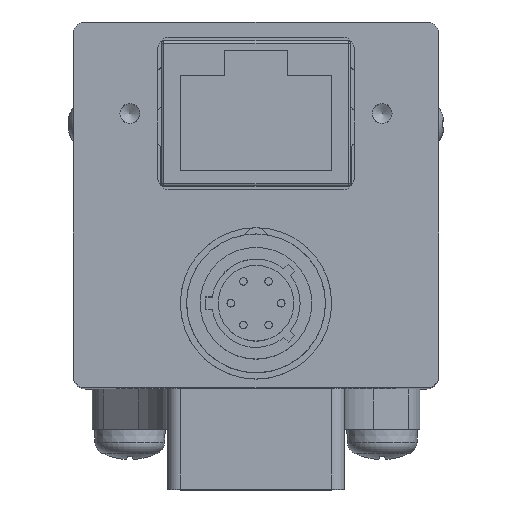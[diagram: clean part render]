
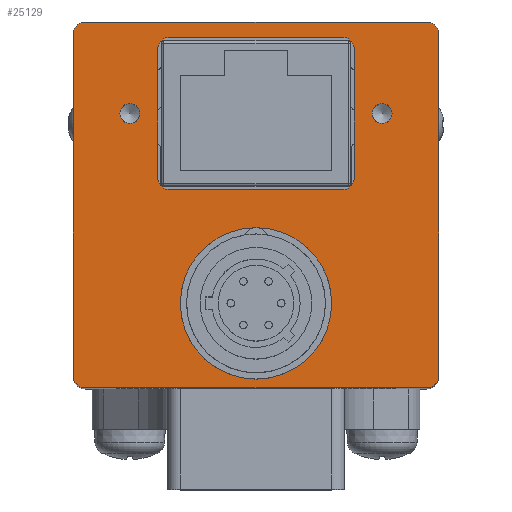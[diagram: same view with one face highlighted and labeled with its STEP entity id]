
A CAD part, top view. The second image highlights one B-rep face of the part: STEP entity #25129.
In plain terms, the highlighted planar face has unit normal (0, 0, 1).
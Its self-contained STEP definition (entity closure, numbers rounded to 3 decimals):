
#271=LINE('',#37539,#1731);
#310=LINE('',#37749,#1770);
#317=LINE('',#37763,#1777);
#320=LINE('',#37771,#1780);
#322=LINE('',#37777,#1782);
#346=LINE('',#37831,#1806);
#347=LINE('',#37834,#1807);
#348=LINE('',#37835,#1808);
#1731=VECTOR('',#30088,27.);
#1770=VECTOR('',#30225,13.6);
#1777=VECTOR('',#30238,10.1);
#1780=VECTOR('',#30247,13.6);
#1782=VECTOR('',#30255,10.1);
#1806=VECTOR('',#30317,27.);
#1807=VECTOR('',#30320,27.);
#1808=VECTOR('',#30321,27.);
#4081=PLANE('',#26917);
#5151=FACE_BOUND('',#7263,.T.);
#5152=FACE_BOUND('',#7264,.T.);
#5153=FACE_BOUND('',#7265,.T.);
#5154=FACE_BOUND('',#7266,.T.);
#5638=FACE_OUTER_BOUND('',#7262,.T.);
#7262=EDGE_LOOP('',(#16883,#16884,#16885,#16886,#16887,#16888,#16889,#16890));
#7263=EDGE_LOOP('',(#16891));
#7264=EDGE_LOOP('',(#16892));
#7265=EDGE_LOOP('',(#16893));
#7266=EDGE_LOOP('',(#16894,#16895,#16896,#16897,#16898,#16899,#16900,#16901));
#9194=CIRCLE('',#26840,1.);
#9195=CIRCLE('',#26843,1.);
#9200=CIRCLE('',#26854,0.784);
#9202=CIRCLE('',#26858,0.784);
#9210=CIRCLE('',#26884,6.);
#9213=CIRCLE('',#26889,1.);
#9214=CIRCLE('',#26892,1.);
#9215=CIRCLE('',#26895,1.);
#9216=CIRCLE('',#26898,1.);
#9219=CIRCLE('',#26918,1.);
#9220=CIRCLE('',#26919,1.);
#10528=VERTEX_POINT('',#37531);
#10529=VERTEX_POINT('',#37533);
#10530=VERTEX_POINT('',#37537);
#10531=VERTEX_POINT('',#37541);
#10542=VERTEX_POINT('',#37654);
#10544=VERTEX_POINT('',#37660);
#10562=VERTEX_POINT('',#37729);
#10566=VERTEX_POINT('',#37742);
#10567=VERTEX_POINT('',#37744);
#10568=VERTEX_POINT('',#37748);
#10571=VERTEX_POINT('',#37757);
#10572=VERTEX_POINT('',#37758);
#10573=VERTEX_POINT('',#37765);
#10574=VERTEX_POINT('',#37766);
#10575=VERTEX_POINT('',#37773);
#10584=VERTEX_POINT('',#37827);
#10585=VERTEX_POINT('',#37828);
#10586=VERTEX_POINT('',#37830);
#10587=VERTEX_POINT('',#37832);
#12866=EDGE_CURVE('',#10528,#10529,#9194,.T.);
#12869=EDGE_CURVE('',#10528,#10530,#271,.T.);
#12871=EDGE_CURVE('',#10531,#10530,#9195,.T.);
#12884=EDGE_CURVE('',#10542,#10542,#9200,.T.);
#12886=EDGE_CURVE('',#10544,#10544,#9202,.T.);
#12921=EDGE_CURVE('',#10562,#10562,#9210,.T.);
#12929=EDGE_CURVE('',#10566,#10567,#9213,.T.);
#12931=EDGE_CURVE('',#10568,#10567,#310,.T.);
#12936=EDGE_CURVE('',#10571,#10572,#9214,.T.);
#12939=EDGE_CURVE('',#10566,#10572,#317,.T.);
#12940=EDGE_CURVE('',#10573,#10574,#9215,.T.);
#12943=EDGE_CURVE('',#10571,#10574,#320,.T.);
#12944=EDGE_CURVE('',#10568,#10575,#9216,.T.);
#12946=EDGE_CURVE('',#10573,#10575,#322,.T.);
#12972=EDGE_CURVE('',#10584,#10585,#9219,.T.);
#12973=EDGE_CURVE('',#10584,#10586,#346,.T.);
#12974=EDGE_CURVE('',#10587,#10586,#9220,.T.);
#12975=EDGE_CURVE('',#10587,#10529,#347,.T.);
#12976=EDGE_CURVE('',#10531,#10585,#348,.T.);
#16883=ORIENTED_EDGE('',*,*,#12972,.F.);
#16884=ORIENTED_EDGE('',*,*,#12973,.T.);
#16885=ORIENTED_EDGE('',*,*,#12974,.F.);
#16886=ORIENTED_EDGE('',*,*,#12975,.T.);
#16887=ORIENTED_EDGE('',*,*,#12866,.F.);
#16888=ORIENTED_EDGE('',*,*,#12869,.T.);
#16889=ORIENTED_EDGE('',*,*,#12871,.F.);
#16890=ORIENTED_EDGE('',*,*,#12976,.T.);
#16891=ORIENTED_EDGE('',*,*,#12884,.T.);
#16892=ORIENTED_EDGE('',*,*,#12886,.T.);
#16893=ORIENTED_EDGE('',*,*,#12921,.T.);
#16894=ORIENTED_EDGE('',*,*,#12946,.T.);
#16895=ORIENTED_EDGE('',*,*,#12944,.F.);
#16896=ORIENTED_EDGE('',*,*,#12931,.T.);
#16897=ORIENTED_EDGE('',*,*,#12929,.F.);
#16898=ORIENTED_EDGE('',*,*,#12939,.T.);
#16899=ORIENTED_EDGE('',*,*,#12936,.F.);
#16900=ORIENTED_EDGE('',*,*,#12943,.T.);
#16901=ORIENTED_EDGE('',*,*,#12940,.F.);
#25129=ADVANCED_FACE('',(#5638,#5151,#5152,#5153,#5154),#4081,.F.);
#26840=AXIS2_PLACEMENT_3D('',#37534,#30082,#30083);
#26843=AXIS2_PLACEMENT_3D('',#37543,#30092,#30093);
#26854=AXIS2_PLACEMENT_3D('',#37655,#30120,#30121);
#26858=AXIS2_PLACEMENT_3D('',#37661,#30128,#30129);
#26884=AXIS2_PLACEMENT_3D('',#37730,#30205,#30206);
#26889=AXIS2_PLACEMENT_3D('',#37745,#30220,#30221);
#26892=AXIS2_PLACEMENT_3D('',#37759,#30232,#30233);
#26895=AXIS2_PLACEMENT_3D('',#37767,#30241,#30242);
#26898=AXIS2_PLACEMENT_3D('',#37774,#30250,#30251);
#26917=AXIS2_PLACEMENT_3D('',#37826,#30313,#30314);
#26918=AXIS2_PLACEMENT_3D('',#37829,#30315,#30316);
#26919=AXIS2_PLACEMENT_3D('',#37833,#30318,#30319);
#30082=DIRECTION('center_axis',(0.,0.,-1.));
#30083=DIRECTION('ref_axis',(0.707,0.707,0.));
#30088=DIRECTION('',(-1.,0.,0.));
#30092=DIRECTION('center_axis',(0.,0.,-1.));
#30093=DIRECTION('ref_axis',(-0.707,0.707,0.));
#30120=DIRECTION('center_axis',(0.,0.,-1.));
#30121=DIRECTION('ref_axis',(1.,0.,0.));
#30128=DIRECTION('center_axis',(0.,0.,-1.));
#30129=DIRECTION('ref_axis',(1.,0.,0.));
#30205=DIRECTION('center_axis',(0.,0.,-1.));
#30206=DIRECTION('ref_axis',(1.,0.,0.));
#30220=DIRECTION('center_axis',(0.,0.,1.));
#30221=DIRECTION('ref_axis',(0.707,0.707,0.));
#30225=DIRECTION('',(1.,0.,0.));
#30232=DIRECTION('center_axis',(0.,0.,1.));
#30233=DIRECTION('ref_axis',(0.707,-0.707,0.));
#30238=DIRECTION('',(0.,-1.,0.));
#30241=DIRECTION('center_axis',(0.,0.,1.));
#30242=DIRECTION('ref_axis',(-0.707,-0.707,0.));
#30247=DIRECTION('',(-1.,0.,0.));
#30250=DIRECTION('center_axis',(0.,0.,1.));
#30251=DIRECTION('ref_axis',(-0.707,0.707,0.));
#30255=DIRECTION('',(0.,1.,0.));
#30313=DIRECTION('center_axis',(0.,0.,-1.));
#30314=DIRECTION('ref_axis',(-1.,0.,0.));
#30315=DIRECTION('center_axis',(0.,0.,-1.));
#30316=DIRECTION('ref_axis',(-0.707,-0.707,0.));
#30317=DIRECTION('',(1.,0.,0.));
#30318=DIRECTION('center_axis',(0.,0.,-1.));
#30319=DIRECTION('ref_axis',(0.707,-0.707,0.));
#30320=DIRECTION('',(0.,1.,0.));
#30321=DIRECTION('',(0.,-1.,0.));
#37531=CARTESIAN_POINT('',(13.5,14.5,53.2));
#37533=CARTESIAN_POINT('',(14.5,13.5,53.2));
#37534=CARTESIAN_POINT('Origin',(13.5,13.5,53.2));
#37537=CARTESIAN_POINT('',(-13.5,14.5,53.2));
#37539=CARTESIAN_POINT('',(14.5,14.5,53.2));
#37541=CARTESIAN_POINT('',(-14.5,13.5,53.2));
#37543=CARTESIAN_POINT('Origin',(-13.5,13.5,53.2));
#37654=CARTESIAN_POINT('',(10.784,7.25,53.2));
#37655=CARTESIAN_POINT('Origin',(10.,7.25,53.2));
#37660=CARTESIAN_POINT('',(-9.217,7.25,53.2));
#37661=CARTESIAN_POINT('Origin',(-10.,7.25,53.2));
#37729=CARTESIAN_POINT('',(6.,-7.8,53.2));
#37730=CARTESIAN_POINT('Origin',(0.,-7.8,53.2));
#37742=CARTESIAN_POINT('',(7.8,12.3,53.2));
#37744=CARTESIAN_POINT('',(6.8,13.3,53.2));
#37745=CARTESIAN_POINT('Origin',(6.8,12.3,53.2));
#37748=CARTESIAN_POINT('',(-6.8,13.3,53.2));
#37749=CARTESIAN_POINT('',(3.9,13.3,53.2));
#37757=CARTESIAN_POINT('',(6.8,1.2,53.2));
#37758=CARTESIAN_POINT('',(7.8,2.2,53.2));
#37759=CARTESIAN_POINT('Origin',(6.8,2.2,53.2));
#37763=CARTESIAN_POINT('',(7.8,0.6,53.2));
#37765=CARTESIAN_POINT('',(-7.8,2.2,53.2));
#37766=CARTESIAN_POINT('',(-6.8,1.2,53.2));
#37767=CARTESIAN_POINT('Origin',(-6.8,2.2,53.2));
#37771=CARTESIAN_POINT('',(-3.9,1.2,53.2));
#37773=CARTESIAN_POINT('',(-7.8,12.3,53.2));
#37774=CARTESIAN_POINT('Origin',(-6.8,12.3,53.2));
#37777=CARTESIAN_POINT('',(-7.8,6.65,53.2));
#37826=CARTESIAN_POINT('Origin',(0.,0.,
53.2));
#37827=CARTESIAN_POINT('',(-13.5,-14.5,53.2));
#37828=CARTESIAN_POINT('',(-14.5,-13.5,53.2));
#37829=CARTESIAN_POINT('Origin',(-13.5,-13.5,53.2));
#37830=CARTESIAN_POINT('',(13.5,-14.5,53.2));
#37831=CARTESIAN_POINT('',(-14.5,-14.5,53.2));
#37832=CARTESIAN_POINT('',(14.5,-13.5,53.2));
#37833=CARTESIAN_POINT('Origin',(13.5,-13.5,53.2));
#37834=CARTESIAN_POINT('',(14.5,-14.5,53.2));
#37835=CARTESIAN_POINT('',(-14.5,14.5,53.2));
